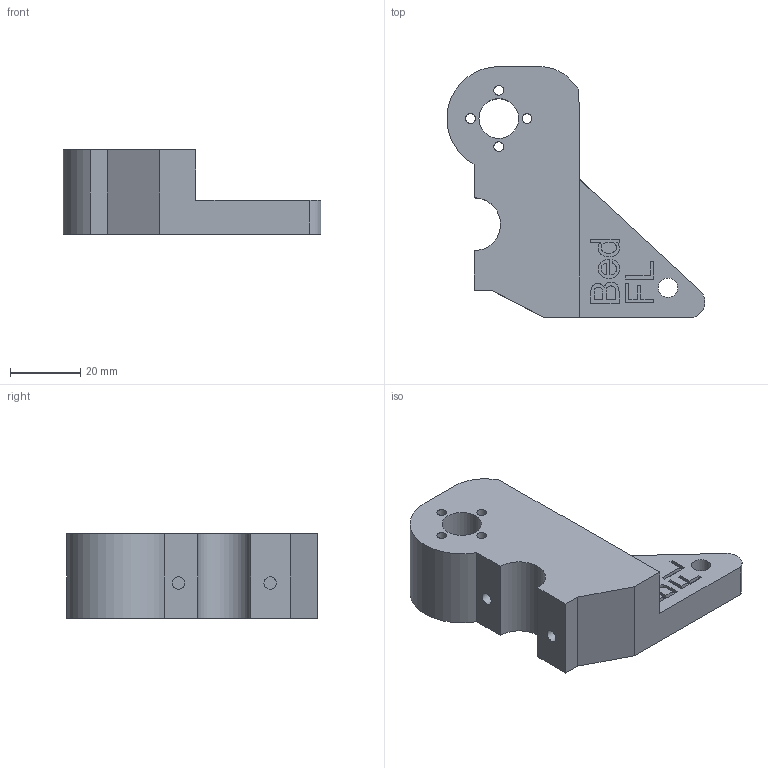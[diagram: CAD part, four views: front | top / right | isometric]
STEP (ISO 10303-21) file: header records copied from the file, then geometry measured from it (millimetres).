
FILE_DESCRIPTION(/* description */ (''),/* implementation_level */ '2;1');
FILE_NAME(/* name */ 'FL Z to Bed v3.step',/* time_stamp */ '2023-03-23T06:34:17-06:00',/* author */ (''),/* organization */ (''),/* preprocessor_version */ 'ST-DEVELOPER v19.2',/* originating_system */ 'Autodesk Translation Framework v11.17.0.187',/* authorisation */ '');
FILE_SCHEMA (('AUTOMOTIVE_DESIGN { 1 0 10303 214 3 1 1 }'));
Length unit declared in the file: millimetre
Products named in the file (2): FL Z to Bed; FL Z to Bed 1
Assembly tree (1 placements, depth 2):
  FL Z to Bed
    FL Z to Bed 1
Bounding box: 73.17 x 71.13 x 24 mm (x, y, z)
Volume: 52982.2 mm3; surface area: 13735.4 mm2
Topology: 1 solids, 1 shells, 145 faces, 390 edges, 260 vertices
Faces by surface type: plane 73, bspline 58, cylinder 14
Full cylindrical faces by diameter (mm): 2.8 x4, 3.5 x4, 5.5 x1, 11.25 x1
Entity records: 5144 total; most frequent: CARTESIAN_POINT 1784, ORIENTED_EDGE 780, DIRECTION 482, EDGE_CURVE 390, VERTEX_POINT 260, LINE 246, VECTOR 246, EDGE_LOOP 174
